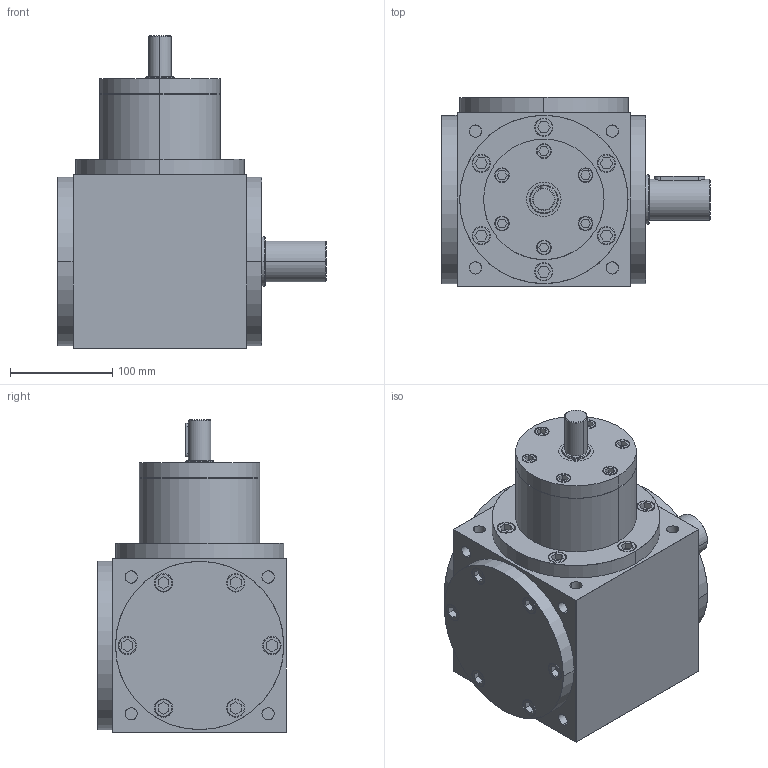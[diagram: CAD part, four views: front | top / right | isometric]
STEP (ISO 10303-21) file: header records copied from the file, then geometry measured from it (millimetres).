
FILE_DESCRIPTION (( 'STEP AP203' ), '1' );
FILE_NAME ('VSAF17-1£º1.5-D.step', '2018-07-14T09:32:25', ( 'IT Division' ), ( 'IT' ), 'SwSTEP 2.0', 'SolidWorks 2016', '' );
FILE_SCHEMA (( 'CONFIG_CONTROL_DESIGN' ));
Length unit declared in the file: millimetre
Products named in the file (1): VSAF17-1：1.5-D
Bounding box: 263 x 185 x 306 mm (x, y, z)
Volume: 7101306.1 mm3; surface area: 298715.4 mm2
Topology: 2 solids, 2 shells, 672 faces, 1500 edges, 923 vertices
Faces by surface type: plane 317, cylinder 271, torus 68, cone 8, sphere 8
Entity records: 18712 total; most frequent: CARTESIAN_POINT 3610, DIRECTION 3285, ORIENTED_EDGE 2984, EDGE_CURVE 1492, AXIS2_PLACEMENT_3D 1252, VERTEX_POINT 923, EDGE_LOOP 795, VECTOR 781
